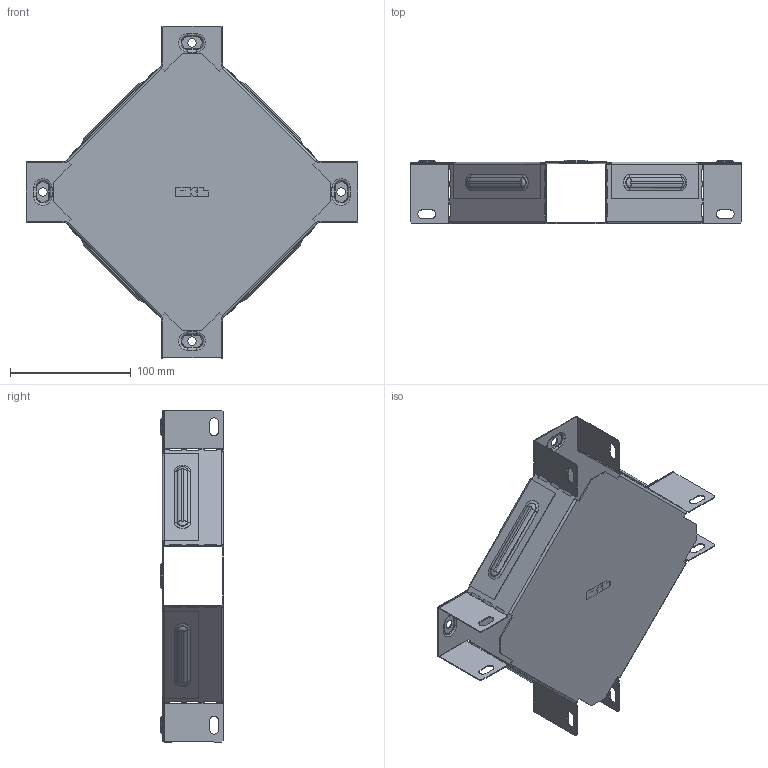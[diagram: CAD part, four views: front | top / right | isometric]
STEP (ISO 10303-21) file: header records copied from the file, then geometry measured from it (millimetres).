
FILE_DESCRIPTION (( 'STEP AP214' ), '1' );
FILE_NAME ('x505008_捘.STEP', '2019-06-10T07:13:16', ( '砐錪賧瘔蠈錪 Windows' ), ( '' ), 'SwSTEP 2.0', 'SolidWorks 2018', '' );
FILE_SCHEMA (( 'AUTOMOTIVE_DESIGN' ));
Length unit declared in the file: millimetre
Products named in the file (1): x505008_捘
Bounding box: 275.01 x 52.4 x 275.01 mm (x, y, z)
Volume: 92086.1 mm3; surface area: 233287 mm2
Topology: 2 solids, 2 shells, 740 faces, 2132 edges, 1384 vertices
Faces by surface type: plane 406, cylinder 220, torus 96, bspline 18
Entity records: 25203 total; most frequent: CARTESIAN_POINT 5215, ORIENTED_EDGE 4264, DIRECTION 4126, EDGE_CURVE 2132, LINE 1512, VECTOR 1512, VERTEX_POINT 1384, AXIS2_PLACEMENT_3D 1307
